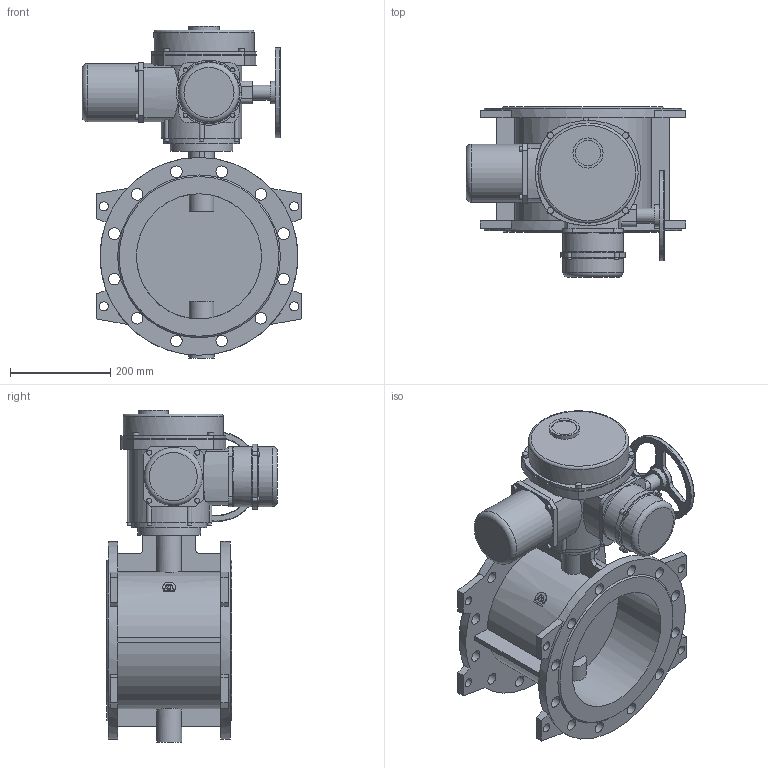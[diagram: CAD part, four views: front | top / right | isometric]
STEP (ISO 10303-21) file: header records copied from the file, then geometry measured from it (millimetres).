
FILE_DESCRIPTION(('STEP AP203'), '1');
FILE_NAME('青蜮铕 023F.Z DN250 PN10_菹_QT.Z060', '', ('UNSPECIFIED'), ('UNSPECIFIED'), 'ASCON STEP Converter 1.6', 'ASCON Math Kernel', '');
FILE_SCHEMA(('CONFIG_CONTROL_DESIGN'));
Length unit declared in the file: millimetre
Bounding box: 438 x 341 x 663 mm (x, y, z)
Volume: 16533470.6 mm3; surface area: 1358481.4 mm2
Topology: 1 solids, 1 shells, 391 faces, 983 edges, 618 vertices
Faces by surface type: cylinder 175, plane 143, torus 47, cone 18, bspline 8
Full cylindrical faces by diameter (mm): 8 x10, 8.376 x4, 10 x4, 10.106 x4, 12 x8, 12.386 x1, 18 x8, 23 x24, 30 x1, 45 x1, 50 x2, 60 x1, 116 x1, 120 x2, 125 x1, 150 x1, 180 x1, 200 x1, 250 x2, 395 x2
Entity records: 17422 total; most frequent: CARTESIAN_POINT 4995, DIRECTION 2037, ORIENTED_EDGE 1722, EDGE_CURVE 861, AXIS2_PLACEMENT_3D 849, VERTEX_POINT 609, EDGE_LOOP 601, CIRCLE 465
